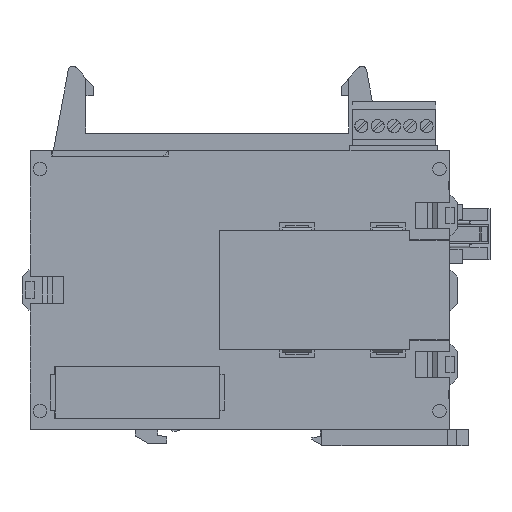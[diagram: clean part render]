
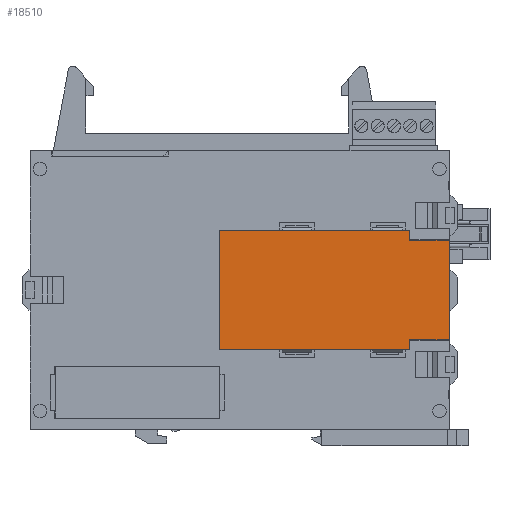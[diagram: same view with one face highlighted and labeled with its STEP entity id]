
A CAD part, left-side view. The second image highlights one B-rep face of the part: STEP entity #18510.
In plain terms, the highlighted planar face has unit normal (-1, 0, 0) as drawn and (0, 0, -1) by its records, which use the part's own axes.
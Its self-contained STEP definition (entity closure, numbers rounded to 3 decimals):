
#67 = FACE_OUTER_BOUND ( 'NONE', #5792, .T. ) ;
#1307 = CARTESIAN_POINT ( 'NONE',  ( -49.3, 12.75, 0. ) ) ;
#2311 = VERTEX_POINT ( 'NONE', #30545 ) ;
#2563 = EDGE_CURVE ( 'NONE', #6626, #10973, #23243, .T. ) ;
#4330 = ORIENTED_EDGE ( 'NONE', *, *, #2563, .F. ) ;
#5792 = EDGE_LOOP ( 'NONE', ( #39801, #20694, #20009, #21789, #40148, #31835, #4330, #26755 ) ) ;
#5890 = LINE ( 'NONE', #1307, #43607 ) ;
#6133 = VERTEX_POINT ( 'NONE', #40550 ) ;
#6320 = DIRECTION ( 'NONE',  ( 0., 1., 0. ) ) ;
#6600 = EDGE_CURVE ( 'NONE', #18678, #6626, #15478, .T. ) ;
#6626 = VERTEX_POINT ( 'NONE', #32728 ) ;
#6907 = DIRECTION ( 'NONE',  ( -1., 0., 0. ) ) ;
#7252 = EDGE_CURVE ( 'NONE', #10973, #24809, #35890, .T. ) ;
#7501 = DIRECTION ( 'NONE',  ( -1., 0., 0. ) ) ;
#7903 = VECTOR ( 'NONE', #6320, 1000. ) ;
#7957 = EDGE_CURVE ( 'NONE', #2311, #13372, #5890, .T. ) ;
#8432 = DIRECTION ( 'NONE',  ( 0., -1., 0. ) ) ;
#10302 = CARTESIAN_POINT ( 'NONE',  ( -8.55, 10.7, 0. ) ) ;
#10926 = CARTESIAN_POINT ( 'NONE',  ( 0., 10.7, 0. ) ) ;
#10973 = VERTEX_POINT ( 'NONE', #10302 ) ;
#11521 = DIRECTION ( 'NONE',  ( 0., 0., -1. ) ) ;
#12094 = CARTESIAN_POINT ( 'NONE',  ( -47.3, 12.75, 0. ) ) ;
#12998 = VECTOR ( 'NONE', #7501, 1000. ) ;
#13012 = CARTESIAN_POINT ( 'NONE',  ( -8.55, -12.75, 0. ) ) ;
#13144 = EDGE_CURVE ( 'NONE', #6133, #13372, #26264, .T. ) ;
#13372 = VERTEX_POINT ( 'NONE', #23542 ) ;
#14083 = DIRECTION ( 'NONE',  ( -1., 0., 0. ) ) ;
#14106 = LINE ( 'NONE', #13012, #33635 ) ;
#14405 = DIRECTION ( 'NONE',  ( -1., 0., 0. ) ) ;
#15153 = VECTOR ( 'NONE', #14083, 1000. ) ;
#15162 = VECTOR ( 'NONE', #26759, 1000. ) ;
#15478 = LINE ( 'NONE', #10926, #7903 ) ;
#16071 = CARTESIAN_POINT ( 'NONE',  ( 0., 0., 0. ) ) ;
#17084 = DIRECTION ( 'NONE',  ( -1., 0., 0. ) ) ;
#18510 = ADVANCED_FACE ( 'NONE', ( #67 ), #20678, .T. ) ;
#18563 = CARTESIAN_POINT ( 'NONE',  ( -8.55, 12.75, 0. ) ) ;
#18668 = CARTESIAN_POINT ( 'NONE',  ( -8.55, 10.7, 0. ) ) ;
#18678 = VERTEX_POINT ( 'NONE', #40531 ) ;
#18985 = CARTESIAN_POINT ( 'NONE',  ( -8.55, -10.7, 0. ) ) ;
#20009 = ORIENTED_EDGE ( 'NONE', *, *, #13144, .T. ) ;
#20678 = PLANE ( 'NONE',  #41266 ) ;
#20694 = ORIENTED_EDGE ( 'NONE', *, *, #21170, .T. ) ;
#20884 = EDGE_CURVE ( 'NONE', #18678, #28377, #23584, .T. ) ;
#21170 = EDGE_CURVE ( 'NONE', #28377, #6133, #14106, .T. ) ;
#21675 = CARTESIAN_POINT ( 'NONE',  ( -47.3, -12.75, 0. ) ) ;
#21789 = ORIENTED_EDGE ( 'NONE', *, *, #7957, .F. ) ;
#23243 = LINE ( 'NONE', #18668, #15153 ) ;
#23542 = CARTESIAN_POINT ( 'NONE',  ( -49.3, -12.75, 0. ) ) ;
#23584 = LINE ( 'NONE', #18985, #35353 ) ;
#24809 = VERTEX_POINT ( 'NONE', #18563 ) ;
#26264 = LINE ( 'NONE', #21675, #31127 ) ;
#26755 = ORIENTED_EDGE ( 'NONE', *, *, #6600, .F. ) ;
#26759 = DIRECTION ( 'NONE',  ( 0., 1., 0. ) ) ;
#27086 = CARTESIAN_POINT ( 'NONE',  ( -8.55, -10.7, 0. ) ) ;
#28377 = VERTEX_POINT ( 'NONE', #27086 ) ;
#30545 = CARTESIAN_POINT ( 'NONE',  ( -49.3, 12.75, 0. ) ) ;
#31127 = VECTOR ( 'NONE', #17084, 1000. ) ;
#31338 = CARTESIAN_POINT ( 'NONE',  ( -8.55, 12.75, 0. ) ) ;
#31835 = ORIENTED_EDGE ( 'NONE', *, *, #7252, .F. ) ;
#32728 = CARTESIAN_POINT ( 'NONE',  ( 0., 10.7, 0. ) ) ;
#33635 = VECTOR ( 'NONE', #8432, 1000. ) ;
#35353 = VECTOR ( 'NONE', #14405, 1000. ) ;
#35890 = LINE ( 'NONE', #31338, #15162 ) ;
#36068 = LINE ( 'NONE', #12094, #12998 ) ;
#36863 = EDGE_CURVE ( 'NONE', #24809, #2311, #36068, .T. ) ;
#39801 = ORIENTED_EDGE ( 'NONE', *, *, #20884, .T. ) ;
#40148 = ORIENTED_EDGE ( 'NONE', *, *, #36863, .F. ) ;
#40531 = CARTESIAN_POINT ( 'NONE',  ( 0., -10.7, 0. ) ) ;
#40550 = CARTESIAN_POINT ( 'NONE',  ( -8.55, -12.75, 0. ) ) ;
#41266 = AXIS2_PLACEMENT_3D ( 'NONE', #16071, #11521, #6907 ) ;
#41415 = DIRECTION ( 'NONE',  ( 0., -1., 0. ) ) ;
#43607 = VECTOR ( 'NONE', #41415, 1000. ) ;
